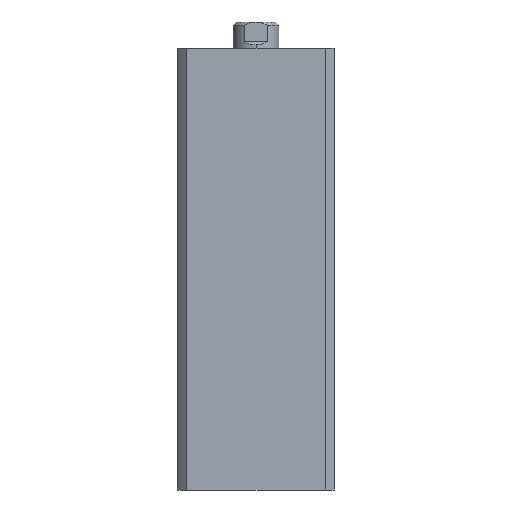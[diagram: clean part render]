
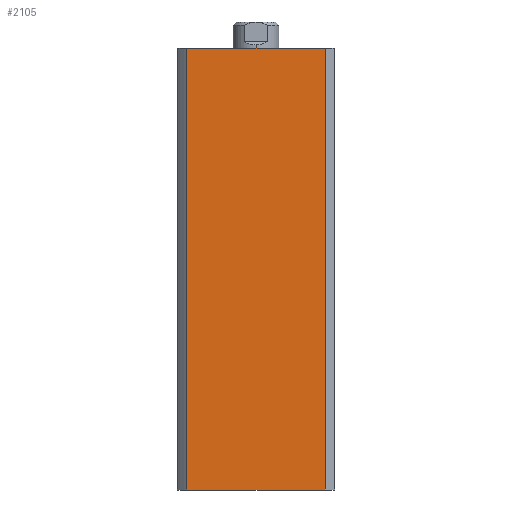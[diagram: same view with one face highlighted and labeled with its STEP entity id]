
A CAD part, left-side view. The second image highlights one B-rep face of the part: STEP entity #2105.
In plain terms, the highlighted planar face has unit normal (-1, 0, 0).
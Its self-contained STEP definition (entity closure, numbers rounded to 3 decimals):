
#183 = AXIS2_PLACEMENT_3D ( 'NONE', #4801, #4812, #4813 ) ;
#878 = FACE_OUTER_BOUND ( 'NONE', #3497, .T. ) ;
#955 = LINE ( 'NONE', #4004, #974 ) ;
#969 = LINE ( 'NONE', #4010, #972 ) ;
#972 = VECTOR ( 'NONE', #4012, 1000. ) ;
#973 = LINE ( 'NONE', #4014, #976 ) ;
#974 = VECTOR ( 'NONE', #4013, 1000. ) ;
#976 = VECTOR ( 'NONE', #4015, 1000. ) ;
#1080 = ORIENTED_EDGE ( 'NONE', *, *, #2218, .T. ) ;
#1081 = ORIENTED_EDGE ( 'NONE', *, *, #2216, .T. ) ;
#1087 = ORIENTED_EDGE ( 'NONE', *, *, #2217, .F. ) ;
#1089 = ORIENTED_EDGE ( 'NONE', *, *, #2377, .F. ) ;
#1791 = VERTEX_POINT ( 'NONE', #4715 ) ;
#2105 = ADVANCED_FACE ( 'NONE', ( #878 ), #4810, .F. ) ;
#2216 = EDGE_CURVE ( 'NONE', #1791, #3572, #969, .T. ) ;
#2217 = EDGE_CURVE ( 'NONE', #3643, #3568, #955, .T. ) ;
#2218 = EDGE_CURVE ( 'NONE', #3572, #3568, #973, .T. ) ;
#2377 = EDGE_CURVE ( 'NONE', #1791, #3643, #3056, .T. ) ;
#2506 = CARTESIAN_POINT ( 'NONE',  ( -24., -21.166, 0. ) ) ;
#2510 = CARTESIAN_POINT ( 'NONE',  ( -24., 21.166, 0. ) ) ;
#2581 = CARTESIAN_POINT ( 'NONE',  ( -24., -21.166, 135. ) ) ;
#3056 = LINE ( 'NONE', #4272, #3058 ) ;
#3058 = VECTOR ( 'NONE', #4273, 1000. ) ;
#3497 = EDGE_LOOP ( 'NONE', ( #1080, #1087, #1089, #1081 ) ) ;
#3568 = VERTEX_POINT ( 'NONE', #2506 ) ;
#3572 = VERTEX_POINT ( 'NONE', #2510 ) ;
#3643 = VERTEX_POINT ( 'NONE', #2581 ) ;
#4004 = CARTESIAN_POINT ( 'NONE',  ( -24., -21.166, 135. ) ) ;
#4010 = CARTESIAN_POINT ( 'NONE',  ( -24., 21.166, 135. ) ) ;
#4012 = DIRECTION ( 'NONE',  ( 0., 0., -1. ) ) ;
#4013 = DIRECTION ( 'NONE',  ( 0., 0., -1. ) ) ;
#4014 = CARTESIAN_POINT ( 'NONE',  ( -24., 0., 0. ) ) ;
#4015 = DIRECTION ( 'NONE',  ( 0., -1., 0. ) ) ;
#4272 = CARTESIAN_POINT ( 'NONE',  ( -24., 0., 135. ) ) ;
#4273 = DIRECTION ( 'NONE',  ( 0., -1., 0. ) ) ;
#4715 = CARTESIAN_POINT ( 'NONE',  ( -24., 21.166, 135. ) ) ;
#4801 = CARTESIAN_POINT ( 'NONE',  ( -24., 0., 135. ) ) ;
#4810 = PLANE ( 'NONE',  #183 ) ;
#4812 = DIRECTION ( 'NONE',  ( 1., 0., 0. ) ) ;
#4813 = DIRECTION ( 'NONE',  ( 0., 0., -1. ) ) ;
